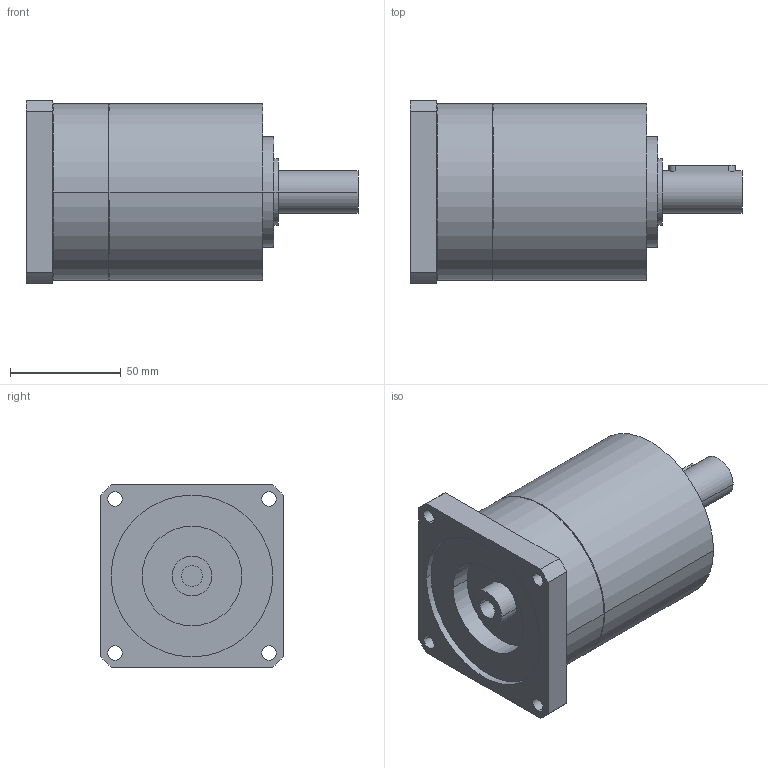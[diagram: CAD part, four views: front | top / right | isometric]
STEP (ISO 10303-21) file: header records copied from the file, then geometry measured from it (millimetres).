
FILE_DESCRIPTION(('CoCreate Modeling STEP Export'),'2;1');
FILE_NAME('GPR100_ig-3-4-5-6_19_B14_9.52_P05.stp','2014-08-26T10:09:36',(''),(''),'CoCreate Modeling STEP processor for AP214 (Solid Model)','CoCreate Modeling 16.00C 25-Feb-2009 (C) Parametric Technology GmbH','');
FILE_SCHEMA(('AUTOMOTIVE_DESIGN { 1 0 10303 214 1 1 1 1 }'));
Length unit declared in the file: millimetre
Products named in the file (2): GPR100_ig-3-4-5-6_19_B14_9.52_P05
Assembly tree (1 placements, depth 2):
  GPR100_ig-3-4-5-6_19_B14_9.52_P05
    GPR100_ig-3-4-5-6_19_B14_9.52_P05
Bounding box: 150 x 82.5 x 82.5 mm (x, y, z)
Volume: 550190.4 mm3; surface area: 50379.4 mm2
Topology: 1 solids, 1 shells, 70 faces, 185 edges, 129 vertices
Faces by surface type: cylinder 42, plane 22, cone 6
Entity records: 1924 total; most frequent: ORIENTED_EDGE 366, CARTESIAN_POINT 357, DIRECTION 262, EDGE_CURVE 183, VERTEX_POINT 129, AXIS2_PLACEMENT_3D 98, EDGE_LOOP 92, FACE_OUTER_BOUND 70
